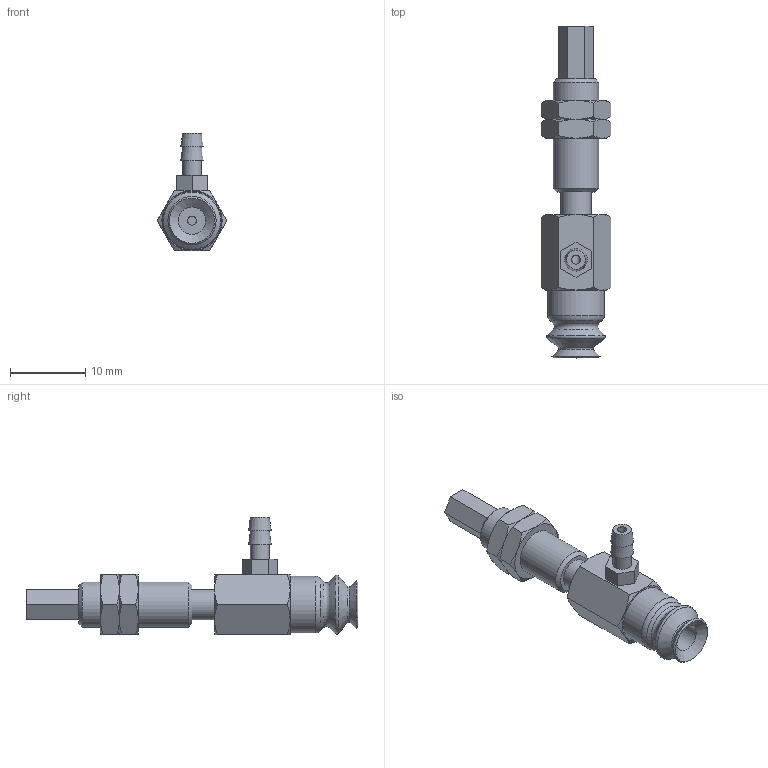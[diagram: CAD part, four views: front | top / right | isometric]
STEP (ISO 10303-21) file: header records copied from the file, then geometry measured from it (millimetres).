
FILE_DESCRIPTION(('STEP AP203'),'1');
FILE_NAME('-T.stp','2025-04-23T07:00:42',(' '),(' '),'Spatial InterOp 3D',' ',' ');
FILE_SCHEMA(('CONFIG_CONTROL_DESIGN'));
Length unit declared in the file: millimetre
Products named in the file (7): BNABPJYS-6-3-※-T; CONNECTOR_S-6-3; NUT-NAPJ-6-3-s; NAPJTS-6-3-FBODY; NAPJTS-6-3-MBODY; BPJG-6-※; T (2)
Assembly tree (7 placements, depth 2):
  BNABPJYS-6-3-※-T
    CONNECTOR_S-6-3
    NUT-NAPJ-6-3-s  x2
    NAPJTS-6-3-FBODY
    NAPJTS-6-3-MBODY
    BPJG-6-※
    T (2)
Bounding box: 9.24 x 44 x 15.6 mm (x, y, z)
Volume: 1546.5 mm3; surface area: 2420.3 mm2
Topology: 7 solids, 7 shells, 152 faces, 325 edges, 196 vertices
Faces by surface type: plane 67, cone 58, cylinder 18, torus 9
Full cylindrical faces by diameter (mm): 1.2 x2, 2.459 x2, 2.5 x1, 3 x2, 3.64 x1, 4 x4, 5.188 x2, 6 x3, 7.5 x1
Entity records: 3712 total; most frequent: CARTESIAN_POINT 833, DIRECTION 534, ORIENTED_EDGE 442, AXIS2_PLACEMENT_3D 230, EDGE_CURVE 221, EDGE_LOOP 194, VERTEX_POINT 157, FACE_OUTER_BOUND 155
